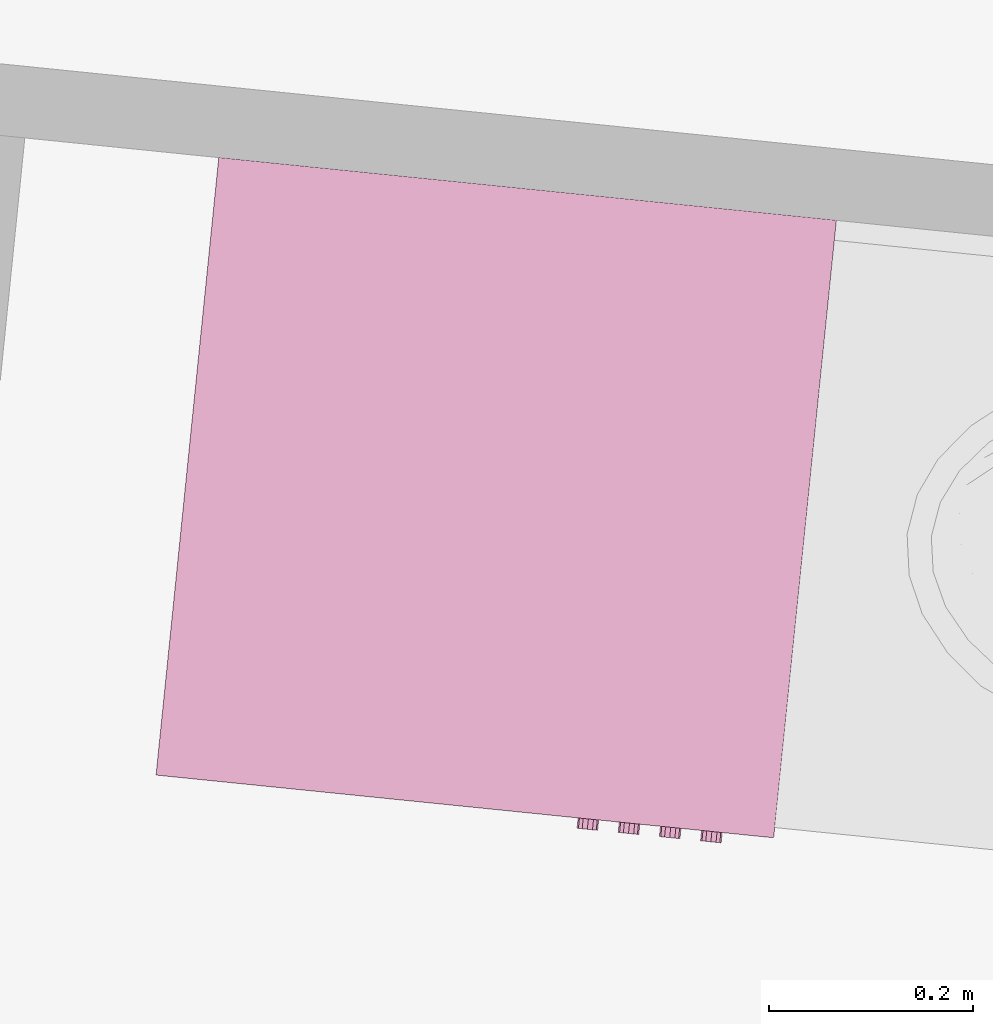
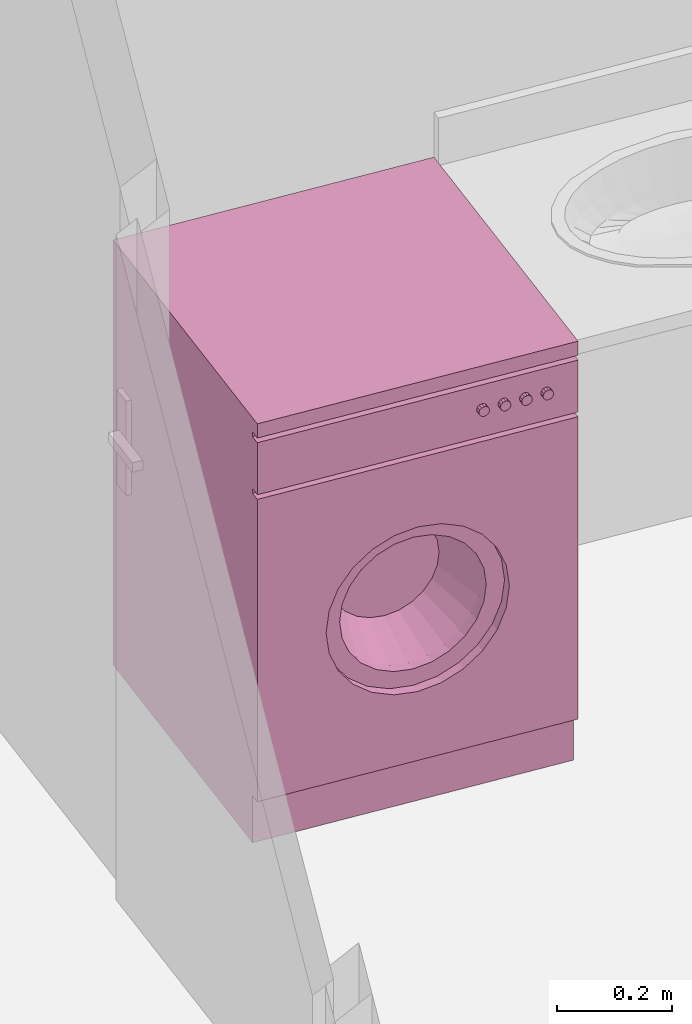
# One storey, part 134 of 164: 1 furnishing.
"""IFC2X3 building model written with IfcOpenShell, lengths in millimetres."""

from ifc_helpers import new_model, entity, si_unit, converted_unit, derived_unit, money_unit, direction, frame, origin_with_axes, place, context, subcontext, project, spatial, open_shell, faceted_brep, surface_model, source, transform, mapped, type_object, element, save


model = new_model("IFC2X3")

# Units and contexts
model_context = context("Model", 3, precision=0.01, world=origin_with_axes(), true_north=direction((0.0, 1.0)))
body_context = subcontext(model_context, "Body", "Model", "MODEL_VIEW")
ifc_project = project(units=[si_unit("LENGTHUNIT", "METRE", prefix="MILLI"), si_unit("AREAUNIT", "SQUARE_METRE"), si_unit("VOLUMEUNIT", "CUBIC_METRE"), converted_unit("PLANEANGLEUNIT", "DEGREE", entity("IfcPlaneAngleMeasure", 0.0174532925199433), si_unit("PLANEANGLEUNIT", "RADIAN"), dimensions=[0, 0, 0, 0, 0, 0, 0]), money_unit("USD"), converted_unit("TIMEUNIT", "Year", entity("IfcTimeMeasure", 31557600.0), si_unit("TIMEUNIT", "SECOND"), dimensions=[0, 0, 1, 0, 0, 0, 0]), si_unit("MASSUNIT", "GRAM", prefix="KILO"), si_unit("THERMODYNAMICTEMPERATUREUNIT", "DEGREE_CELSIUS"), si_unit("LUMINOUSINTENSITYUNIT", "LUMEN"), si_unit("ENERGYUNIT", "JOULE", prefix="MEGA"), derived_unit("THERMALCONDUCTANCEUNIT", [(si_unit("POWERUNIT", "WATT"), 1), (si_unit("LENGTHUNIT", "METRE"), -1), (si_unit("THERMODYNAMICTEMPERATUREUNIT", "KELVIN"), -1)]), derived_unit("SPECIFICHEATCAPACITYUNIT", [(si_unit("ENERGYUNIT", "JOULE"), 1), (si_unit("MASSUNIT", "GRAM", prefix="KILO"), -1), (si_unit("THERMODYNAMICTEMPERATUREUNIT", "KELVIN"), -1)]), derived_unit("MASSDENSITYUNIT", [(si_unit("MASSUNIT", "GRAM", prefix="KILO"), 1), (si_unit("VOLUMEUNIT", "CUBIC_METRE"), -1)])], contexts=[model_context])

# Site, building, storey
site_placement = place(None, origin_with_axes())
site = spatial("IfcSite", under=ifc_project, at=site_placement, Name="Site", CompositionType="ELEMENT")
building_placement = place(site_placement, origin_with_axes())
building = spatial("IfcBuilding", under=site, at=building_placement, Name="Bâtiment", CompositionType="ELEMENT")
storey_placement = place(building_placement, frame((0.0, 0.0, 5750.0), z_axis=(0.0, 0.0, 1.0), x_axis=(1.0, 0.0, 0.0)))
storey = spatial("IfcBuildingStorey", under=building, at=storey_placement, Name="Etage1", CompositionType="ELEMENT", Elevation=5750.0)

# Furnishing
furnishing_element_type = type_object("IfcFurnishingElementType", Name="Machine à laver")
shared_shape = source(origin_with_axes(), body_context, "Body", "SurfaceModel", [
    faceted_brep([(0.0, 20.33333333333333, 100.0), (0.0, 0.0, 100.0), (-610.0, 0.0, 100.0), (-610.0, 20.33333333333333, 100.0), (0.0, 20.33333333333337, 740.0), (0.0, 0.0, 740.0), (-610.0, 0.0, 740.0), (-479.2857142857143, 0.0, 420.0000000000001), (-473.3470725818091, 0.0, 465.1084621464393), (-455.935856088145, 0.0, 507.1428571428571), (-428.2386104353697, 0.0, 543.2386104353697), (-392.1428571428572, 0.0, 570.935856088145), (-350.1084621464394, 0.0, 588.347072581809), (-305.0000000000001, 0.0, 594.2857142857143), (-259.8915378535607, 0.0, 588.347072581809), (-217.8571428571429, 0.0, 570.9358560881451), (-181.7613895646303, 0.0, 543.2386104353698), (-154.0641439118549, 0.0, 507.1428571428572), (-136.6529274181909, 0.0, 465.1084621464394), (-130.7142857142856, 0.0, 420.0000000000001), (-136.6529274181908, 0.0, 374.8915378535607), (-154.0641439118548, 0.0, 332.8571428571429), (-181.7613895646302, 0.0, 296.7613895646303), (-217.8571428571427, 0.0, 269.064143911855), (-259.8915378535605, 0.0, 251.6529274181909), (-304.9999999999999, 0.0, 245.7142857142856), (-350.1084621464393, 0.0, 251.6529274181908), (-392.1428571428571, 0.0, 269.0641439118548), (-428.2386104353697, 0.0, 296.7613895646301), (-455.935856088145, 0.0, 332.8571428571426), (-473.3470725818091, 0.0, 374.8915378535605), (-610.0, 20.33333333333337, 740.0), (-479.2857142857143, 20.33333333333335, 420.0000000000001), (-473.3470725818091, 20.33333333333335, 374.8915378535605), (-455.935856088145, 20.33333333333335, 332.8571428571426), (-428.2386104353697, 20.33333333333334, 296.7613895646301), (-392.1428571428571, 20.33333333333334, 269.0641439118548), (-350.1084621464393, 20.33333333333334, 251.6529274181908), (-304.9999999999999, 20.33333333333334, 245.7142857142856), (-259.8915378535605, 20.33333333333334, 251.6529274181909), (-217.8571428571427, 20.33333333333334, 269.064143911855), (-181.7613895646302, 20.33333333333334, 296.7613895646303), (-154.0641439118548, 20.33333333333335, 332.8571428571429), (-136.6529274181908, 20.33333333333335, 374.8915378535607), (-130.7142857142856, 20.33333333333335, 420.0000000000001), (-136.6529274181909, 20.33333333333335, 465.1084621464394), (-154.0641439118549, 20.33333333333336, 507.1428571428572), (-181.7613895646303, 20.33333333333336, 543.2386104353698), (-217.8571428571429, 20.33333333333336, 570.9358560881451), (-259.8915378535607, 20.33333333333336, 588.347072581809), (-305.0000000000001, 20.33333333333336, 594.2857142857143), (-350.1084621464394, 20.33333333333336, 588.347072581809), (-392.1428571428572, 20.33333333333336, 570.935856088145), (-428.2386104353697, 20.33333333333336, 543.2386104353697), (-455.935856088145, 20.33333333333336, 507.1428571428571), (-473.3470725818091, 20.33333333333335, 465.1084621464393)], [[[0, 1, 2, 3]], [[4, 5, 1, 0]], [[1, 5, 6, 2], [7, 8, 9, 10, 11, 12, 13, 14, 15, 16, 17, 18, 19, 20, 21, 22, 23, 24, 25, 26, 27, 28, 29, 30]], [[3, 2, 6, 31]], [[0, 3, 31, 4], [32, 33, 34, 35, 36, 37, 38, 39, 40, 41, 42, 43, 44, 45, 46, 47, 48, 49, 50, 51, 52, 53, 54, 55]], [[31, 6, 5, 4]], [[55, 8, 7, 32]], [[54, 9, 8, 55]], [[53, 10, 9, 54]], [[52, 11, 10, 53]], [[51, 12, 11, 52]], [[50, 13, 12, 51]], [[49, 14, 13, 50]], [[48, 15, 14, 49]], [[47, 16, 15, 48]], [[46, 17, 16, 47]], [[45, 18, 17, 46]], [[44, 19, 18, 45]], [[43, 20, 19, 44]], [[42, 21, 20, 43]], [[41, 22, 21, 42]], [[40, 23, 22, 41]], [[39, 24, 23, 40]], [[38, 25, 24, 39]], [[37, 26, 25, 38]], [[36, 27, 26, 37]], [[35, 28, 27, 36]], [[34, 29, 28, 35]], [[33, 30, 29, 34]], [[32, 7, 30, 33]]]),
    faceted_brep([(-479.2857142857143, 40.66666666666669, 420.0000000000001), (-479.2857142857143, 20.33333333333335, 420.0000000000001), (-473.3470725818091, 20.33333333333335, 465.1084621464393), (-473.3470725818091, 40.66666666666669, 465.1084621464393), (-473.3470725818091, 40.66666666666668, 374.8915378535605), (-473.3470725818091, 20.33333333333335, 374.8915378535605), (-455.935856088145, 20.33333333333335, 332.8571428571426), (-428.2386104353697, 20.33333333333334, 296.7613895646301), (-392.1428571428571, 20.33333333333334, 269.0641439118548), (-350.1084621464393, 20.33333333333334, 251.6529274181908), (-304.9999999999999, 20.33333333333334, 245.7142857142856), (-259.8915378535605, 20.33333333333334, 251.6529274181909), (-217.8571428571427, 20.33333333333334, 269.064143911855), (-181.7613895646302, 20.33333333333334, 296.7613895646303), (-154.0641439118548, 20.33333333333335, 332.8571428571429), (-136.6529274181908, 20.33333333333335, 374.8915378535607), (-130.7142857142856, 20.33333333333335, 420.0000000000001), (-136.6529274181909, 20.33333333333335, 465.1084621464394), (-154.0641439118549, 20.33333333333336, 507.1428571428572), (-181.7613895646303, 20.33333333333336, 543.2386104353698), (-217.8571428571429, 20.33333333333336, 570.9358560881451), (-259.8915378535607, 20.33333333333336, 588.347072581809), (-305.0000000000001, 20.33333333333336, 594.2857142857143), (-350.1084621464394, 20.33333333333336, 588.347072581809), (-392.1428571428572, 20.33333333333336, 570.935856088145), (-428.2386104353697, 20.33333333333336, 543.2386104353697), (-455.935856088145, 20.33333333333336, 507.1428571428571), (-444.4285714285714, 20.33333333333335, 420.0000000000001), (-439.6776580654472, 20.33333333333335, 456.0867697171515), (-425.748684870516, 20.33333333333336, 489.7142857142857), (-403.5908883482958, 20.33333333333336, 518.5908883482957), (-374.7142857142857, 20.33333333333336, 540.748684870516), (-341.0867697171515, 20.33333333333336, 554.6776580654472), (-305.0000000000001, 20.33333333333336, 559.4285714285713), (-268.9132302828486, 20.33333333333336, 554.6776580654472), (-235.2857142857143, 20.33333333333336, 540.7486848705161), (-206.4091116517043, 20.33333333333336, 518.5908883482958), (-184.251315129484, 20.33333333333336, 489.7142857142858), (-170.3223419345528, 20.33333333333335, 456.0867697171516), (-165.5714285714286, 20.33333333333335, 420.0000000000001), (-170.3223419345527, 20.33333333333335, 383.9132302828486), (-184.2513151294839, 20.33333333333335, 350.2857142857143), (-206.4091116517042, 20.33333333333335, 321.4091116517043), (-235.2857142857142, 20.33333333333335, 299.251315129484), (-268.9132302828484, 20.33333333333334, 285.3223419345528), (-304.9999999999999, 20.33333333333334, 280.5714285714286), (-341.0867697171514, 20.33333333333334, 285.3223419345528), (-374.7142857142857, 20.33333333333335, 299.2513151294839), (-403.5908883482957, 20.33333333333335, 321.4091116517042), (-425.748684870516, 20.33333333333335, 350.2857142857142), (-439.6776580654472, 20.33333333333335, 383.9132302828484), (-455.935856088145, 40.66666666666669, 507.1428571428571), (-428.2386104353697, 40.66666666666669, 543.2386104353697), (-392.1428571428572, 40.66666666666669, 570.935856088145), (-350.1084621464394, 40.66666666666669, 588.347072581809), (-305.0000000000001, 40.66666666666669, 594.2857142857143), (-259.8915378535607, 40.66666666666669, 588.347072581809), (-217.8571428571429, 40.66666666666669, 570.9358560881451), (-181.7613895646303, 40.66666666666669, 543.2386104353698), (-154.0641439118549, 40.66666666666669, 507.1428571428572), (-136.6529274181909, 40.66666666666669, 465.1084621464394), (-130.7142857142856, 40.66666666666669, 420.0000000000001), (-136.6529274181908, 40.66666666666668, 374.8915378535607), (-154.0641439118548, 40.66666666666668, 332.8571428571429), (-181.7613895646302, 40.66666666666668, 296.7613895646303), (-217.8571428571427, 40.66666666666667, 269.064143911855), (-259.8915378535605, 40.66666666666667, 251.6529274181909), (-304.9999999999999, 40.66666666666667, 245.7142857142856), (-350.1084621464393, 40.66666666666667, 251.6529274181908), (-392.1428571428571, 40.66666666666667, 269.0641439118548), (-428.2386104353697, 40.66666666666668, 296.7613895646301), (-455.935856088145, 40.66666666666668, 332.8571428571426), (-444.4285714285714, 40.66666666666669, 420.0000000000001), (-439.6776580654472, 40.66666666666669, 383.9132302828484), (-425.748684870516, 40.66666666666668, 350.2857142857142), (-403.5908883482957, 40.66666666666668, 321.4091116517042), (-374.7142857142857, 40.66666666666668, 299.2513151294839), (-341.0867697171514, 40.66666666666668, 285.3223419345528), (-304.9999999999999, 40.66666666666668, 280.5714285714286), (-268.9132302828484, 40.66666666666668, 285.3223419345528), (-235.2857142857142, 40.66666666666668, 299.251315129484), (-206.4091116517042, 40.66666666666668, 321.4091116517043), (-184.2513151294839, 40.66666666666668, 350.2857142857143), (-170.3223419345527, 40.66666666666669, 383.9132302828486), (-165.5714285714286, 40.66666666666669, 420.0000000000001), (-170.3223419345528, 40.66666666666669, 456.0867697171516), (-184.251315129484, 40.66666666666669, 489.7142857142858), (-206.4091116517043, 40.66666666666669, 518.5908883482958), (-235.2857142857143, 40.66666666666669, 540.7486848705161), (-268.9132302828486, 40.66666666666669, 554.6776580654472), (-305.0000000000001, 40.66666666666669, 559.4285714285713), (-341.0867697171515, 40.66666666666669, 554.6776580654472), (-374.7142857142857, 40.66666666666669, 540.748684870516), (-403.5908883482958, 40.66666666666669, 518.5908883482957), (-425.748684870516, 40.66666666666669, 489.7142857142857), (-439.6776580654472, 40.66666666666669, 456.0867697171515)], [[[0, 1, 2, 3]], [[4, 5, 1, 0]], [[1, 5, 6, 7, 8, 9, 10, 11, 12, 13, 14, 15, 16, 17, 18, 19, 20, 21, 22, 23, 24, 25, 26, 2], [27, 28, 29, 30, 31, 32, 33, 34, 35, 36, 37, 38, 39, 40, 41, 42, 43, 44, 45, 46, 47, 48, 49, 50]], [[3, 2, 26, 51]], [[0, 3, 51, 52, 53, 54, 55, 56, 57, 58, 59, 60, 61, 62, 63, 64, 65, 66, 67, 68, 69, 70, 71, 4], [72, 73, 74, 75, 76, 77, 78, 79, 80, 81, 82, 83, 84, 85, 86, 87, 88, 89, 90, 91, 92, 93, 94, 95]], [[71, 6, 5, 4]], [[70, 7, 6, 71]], [[69, 8, 7, 70]], [[68, 9, 8, 69]], [[67, 10, 9, 68]], [[66, 11, 10, 67]], [[65, 12, 11, 66]], [[64, 13, 12, 65]], [[63, 14, 13, 64]], [[62, 15, 14, 63]], [[61, 16, 15, 62]], [[60, 17, 16, 61]], [[59, 18, 17, 60]], [[58, 19, 18, 59]], [[57, 20, 19, 58]], [[56, 21, 20, 57]], [[55, 22, 21, 56]], [[54, 23, 22, 55]], [[53, 24, 23, 54]], [[52, 25, 24, 53]], [[51, 26, 25, 52]], [[95, 28, 27, 72]], [[94, 29, 28, 95]], [[93, 30, 29, 94]], [[92, 31, 30, 93]], [[91, 32, 31, 92]], [[90, 33, 32, 91]], [[89, 34, 33, 90]], [[88, 35, 34, 89]], [[87, 36, 35, 88]], [[86, 37, 36, 87]], [[85, 38, 37, 86]], [[84, 39, 38, 85]], [[83, 40, 39, 84]], [[82, 41, 40, 83]], [[81, 42, 41, 82]], [[80, 43, 42, 81]], [[79, 44, 43, 80]], [[78, 45, 44, 79]], [[77, 46, 45, 78]], [[76, 47, 46, 77]], [[75, 48, 47, 76]], [[74, 49, 48, 75]], [[73, 50, 49, 74]], [[72, 27, 50, 73]]]),
    surface_model("IfcShellBasedSurfaceModel", [(-268.9132302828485, 40.6666666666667, 554.6776580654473), (-277.9349227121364, 142.3333333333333, 521.0082435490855), (-305.0, 142.3333333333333, 524.5714285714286), (-305.0, 40.6666666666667, 559.4285714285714), (-235.2857142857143, 40.6666666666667, 540.7486848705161), (-252.7142857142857, 142.3333333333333, 510.5615136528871), (-231.0568337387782, 142.3333333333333, 493.9431662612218), (-214.438486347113, 142.3333333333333, 472.2857142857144), (-203.9917564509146, 142.3333333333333, 447.0650772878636), (-200.4285714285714, 142.3333333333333, 420.0000000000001), (-203.9917564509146, 142.3333333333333, 392.9349227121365), (-214.4384863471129, 142.3333333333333, 367.7142857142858), (-231.0568337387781, 142.3333333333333, 346.0568337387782), (-252.7142857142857, 142.3333333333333, 329.438486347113), (-277.9349227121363, 142.3333333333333, 318.9917564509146), (-304.9999999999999, 142.3333333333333, 315.4285714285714), (-332.0650772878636, 142.3333333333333, 318.9917564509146), (-357.2857142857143, 142.3333333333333, 329.438486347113), (-378.9431662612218, 142.3333333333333, 346.0568337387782), (-395.561513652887, 142.3333333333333, 367.7142857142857), (-406.0082435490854, 142.3333333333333, 392.9349227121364), (-409.5714285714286, 142.3333333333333, 420.0), (-406.0082435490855, 142.3333333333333, 447.0650772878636), (-395.5615136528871, 142.3333333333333, 472.2857142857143), (-378.9431662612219, 142.3333333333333, 493.9431662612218), (-357.2857142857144, 142.3333333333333, 510.5615136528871), (-332.0650772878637, 142.3333333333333, 521.0082435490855), (-341.0867697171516, 40.6666666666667, 554.6776580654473), (-206.4091116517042, 40.66666666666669, 518.5908883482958), (-184.251315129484, 40.66666666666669, 489.7142857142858), (-170.3223419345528, 40.66666666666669, 456.0867697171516), (-165.5714285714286, 40.66666666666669, 420.0000000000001), (-170.3223419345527, 40.66666666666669, 383.9132302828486), (-184.2513151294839, 40.66666666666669, 350.2857142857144), (-206.4091116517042, 40.66666666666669, 321.4091116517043), (-235.2857142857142, 40.66666666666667, 299.251315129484), (-268.9132302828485, 40.66666666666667, 285.3223419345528), (-304.9999999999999, 40.66666666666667, 280.5714285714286), (-341.0867697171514, 40.66666666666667, 285.3223419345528), (-374.7142857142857, 40.66666666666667, 299.2513151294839), (-403.5908883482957, 40.66666666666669, 321.4091116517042), (-425.748684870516, 40.66666666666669, 350.2857142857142), (-439.6776580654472, 40.66666666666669, 383.9132302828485), (-444.4285714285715, 40.66666666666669, 419.9999999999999), (-439.6776580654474, 40.66666666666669, 456.0867697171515), (-425.7486848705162, 40.66666666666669, 489.7142857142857), (-403.5908883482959, 40.66666666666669, 518.5908883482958), (-374.7142857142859, 40.6666666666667, 540.7486848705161)], [open_shell([[[0, 1, 2, 3]], [[4, 5, 1, 0]], [[2, 1, 5, 6, 7, 8, 9, 10, 11, 12, 13, 14, 15, 16, 17, 18, 19, 20, 21, 22, 23, 24, 25, 26]], [[3, 2, 26, 27]], [[28, 6, 5, 4]], [[29, 7, 6, 28]], [[30, 8, 7, 29]], [[31, 9, 8, 30]], [[32, 10, 9, 31]], [[33, 11, 10, 32]], [[34, 12, 11, 33]], [[35, 13, 12, 34]], [[36, 14, 13, 35]], [[37, 15, 14, 36]], [[38, 16, 15, 37]], [[39, 17, 16, 38]], [[40, 18, 17, 39]], [[41, 19, 18, 40]], [[42, 20, 19, 41]], [[43, 21, 20, 42]], [[44, 22, 21, 43]], [[45, 23, 22, 44]], [[46, 24, 23, 45]], [[47, 25, 24, 46]], [[27, 26, 25, 47]]])]),
    surface_model("IfcShellBasedSurfaceModel", [(0.0, 20.33333333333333, 100.0), (0.0, 610.0, 99.99999999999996), (0.0, 610.0, 870.0), (0.0, 20.33333333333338, 870.0)], [open_shell([[[0, 1, 2, 3]]])]),
    surface_model("IfcShellBasedSurfaceModel", [(-610.0, 20.33333333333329, 100.0), (-610.0, 610.0, 99.99999999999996), (-610.0, 610.0, 870.0), (-610.0, 20.33333333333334, 870.0)], [open_shell([[[0, 1, 2, 3]]])]),
    surface_model("IfcShellBasedSurfaceModel", [(0.0, 610.0, 100.0), (-610.0, 610.0, 100.0), (-610.0, 610.0, 870.0), (0.0, 610.0, 870.0)], [open_shell([[[0, 1, 2, 3]]])]),
    faceted_brep([(0.0, 20.33333333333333, 0.0), (0.0, 20.33333333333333, 100.0), (-610.0, 20.33333333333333, 100.0), (-610.0, 20.33333333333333, 0.0), (0.0, 610.3333333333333, 0.0), (0.0, 610.3333333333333, 100.0), (-610.0, 610.3333333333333, 100.0), (-610.0, 610.3333333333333, 0.0)], [[[0, 1, 2, 3]], [[4, 5, 1, 0]], [[1, 5, 6, 2]], [[3, 2, 6, 7]], [[0, 3, 7, 4]], [[7, 6, 5, 4]]]),
    faceted_brep([(0.0, 20.33333333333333, 750.0), (0.0, 0.0, 750.0), (-610.0, 0.0, 750.0), (-610.0, 20.33333333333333, 750.0), (0.0, 20.33333333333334, 860.0), (0.0, 0.0, 860.0), (-610.0, 0.0, 860.0), (-610.0, 20.33333333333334, 860.0)], [[[0, 1, 2, 3]], [[4, 5, 1, 0]], [[1, 5, 6, 2]], [[3, 2, 6, 7]], [[0, 3, 7, 4]], [[7, 6, 5, 4]]]),
    surface_model("IfcShellBasedSurfaceModel", [(0.0, 20.33333333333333, 739.8333333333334), (-610.0, 20.33333333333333, 739.8333333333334), (-610.0, 20.33333333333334, 869.8333333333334), (0.0, 20.33333333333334, 869.8333333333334)], [open_shell([[[0, 1, 2, 3]]])]),
    faceted_brep([(0.0, 0.0, 870.0), (0.0, 0.0, 900.0), (-610.0, 0.0, 900.0), (-610.0, 0.0, 870.0), (0.0, 610.0, 870.0), (0.0, 610.0, 900.0), (-610.0, 610.0, 900.0), (-610.0, 610.0, 870.0)], [[[0, 1, 2, 3]], [[4, 5, 1, 0]], [[1, 5, 6, 2]], [[3, 2, 6, 7]], [[0, 3, 7, 4]], [[7, 6, 5, 4]]]),
    faceted_brep([(-69.80459160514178, 0.0, 804.9166666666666), (-71.16666666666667, 0.0, 809.9999999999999), (-69.8045916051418, 0.0, 815.0833333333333), (-66.08333333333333, 0.0, 818.8045916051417), (-61.0, 0.0, 820.1666666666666), (-55.91666666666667, 0.0, 818.8045916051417), (-52.19540839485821, 0.0, 815.0833333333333), (-50.83333333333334, 0.0, 809.9999999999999), (-52.1954083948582, 0.0, 804.9166666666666), (-55.91666666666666, 0.0, 801.1954083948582), (-60.99999999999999, 0.0, 799.8333333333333), (-66.08333333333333, 0.0, 801.1954083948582), (-69.80459160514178, -10.16666666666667, 804.9166666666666), (-71.16666666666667, -10.16666666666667, 809.9999999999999), (-69.8045916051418, -10.16666666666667, 815.0833333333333), (-66.08333333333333, -10.16666666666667, 818.8045916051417), (-61.0, -10.16666666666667, 820.1666666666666), (-55.91666666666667, -10.16666666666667, 818.8045916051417), (-52.19540839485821, -10.16666666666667, 815.0833333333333), (-50.83333333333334, -10.16666666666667, 809.9999999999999), (-52.1954083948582, -10.16666666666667, 804.9166666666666), (-55.91666666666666, -10.16666666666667, 801.1954083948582), (-60.99999999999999, -10.16666666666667, 799.8333333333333), (-66.08333333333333, -10.16666666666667, 801.1954083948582)], [[[0, 1, 2, 3, 4, 5, 6, 7, 8, 9, 10, 11]], [[0, 12, 13, 1]], [[1, 13, 14, 2]], [[2, 14, 15, 3]], [[3, 15, 16, 4]], [[4, 16, 17, 5]], [[5, 17, 18, 6]], [[6, 18, 19, 7]], [[7, 19, 20, 8]], [[8, 20, 21, 9]], [[9, 21, 22, 10]], [[10, 22, 23, 11]], [[11, 23, 12, 0]], [[12, 23, 22, 21, 20, 19, 18, 17, 16, 15, 14, 13]]]),
    faceted_brep([(-110.4712582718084, 0.0, 804.9166666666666), (-111.8333333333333, 0.0, 809.9999999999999), (-110.4712582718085, 0.0, 815.0833333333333), (-106.75, 0.0, 818.8045916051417), (-101.6666666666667, 0.0, 820.1666666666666), (-96.58333333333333, 0.0, 818.8045916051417), (-92.86207506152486, 0.0, 815.0833333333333), (-91.49999999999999, 0.0, 809.9999999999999), (-92.86207506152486, 0.0, 804.9166666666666), (-96.58333333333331, 0.0, 801.1954083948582), (-101.6666666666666, 0.0, 799.8333333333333), (-106.75, 0.0, 801.1954083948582), (-110.4712582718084, -10.16666666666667, 804.9166666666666), (-111.8333333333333, -10.16666666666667, 809.9999999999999), (-110.4712582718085, -10.16666666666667, 815.0833333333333), (-106.75, -10.16666666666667, 818.8045916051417), (-101.6666666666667, -10.16666666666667, 820.1666666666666), (-96.58333333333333, -10.16666666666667, 818.8045916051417), (-92.86207506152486, -10.16666666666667, 815.0833333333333), (-91.49999999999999, -10.16666666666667, 809.9999999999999), (-92.86207506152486, -10.16666666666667, 804.9166666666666), (-96.58333333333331, -10.16666666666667, 801.1954083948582), (-101.6666666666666, -10.16666666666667, 799.8333333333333), (-106.75, -10.16666666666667, 801.1954083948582)], [[[0, 1, 2, 3, 4, 5, 6, 7, 8, 9, 10, 11]], [[0, 12, 13, 1]], [[1, 13, 14, 2]], [[2, 14, 15, 3]], [[3, 15, 16, 4]], [[4, 16, 17, 5]], [[5, 17, 18, 6]], [[6, 18, 19, 7]], [[7, 19, 20, 8]], [[8, 20, 21, 9]], [[9, 21, 22, 10]], [[10, 22, 23, 11]], [[11, 23, 12, 0]], [[12, 23, 22, 21, 20, 19, 18, 17, 16, 15, 14, 13]]]),
    faceted_brep([(-151.1379249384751, 0.0, 804.9166666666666), (-152.5, 0.0, 809.9999999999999), (-151.1379249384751, 0.0, 815.0833333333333), (-147.4166666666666, 0.0, 818.8045916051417), (-142.3333333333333, 0.0, 820.1666666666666), (-137.25, 0.0, 818.8045916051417), (-133.5287417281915, 0.0, 815.0833333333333), (-132.1666666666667, 0.0, 809.9999999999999), (-133.5287417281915, 0.0, 804.9166666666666), (-137.25, 0.0, 801.1954083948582), (-142.3333333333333, 0.0, 799.8333333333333), (-147.4166666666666, 0.0, 801.1954083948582), (-151.1379249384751, -10.16666666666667, 804.9166666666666), (-152.5, -10.16666666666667, 809.9999999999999), (-151.1379249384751, -10.16666666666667, 815.0833333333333), (-147.4166666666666, -10.16666666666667, 818.8045916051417), (-142.3333333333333, -10.16666666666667, 820.1666666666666), (-137.25, -10.16666666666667, 818.8045916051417), (-133.5287417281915, -10.16666666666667, 815.0833333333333), (-132.1666666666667, -10.16666666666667, 809.9999999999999), (-133.5287417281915, -10.16666666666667, 804.9166666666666), (-137.25, -10.16666666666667, 801.1954083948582), (-142.3333333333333, -10.16666666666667, 799.8333333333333), (-147.4166666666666, -10.16666666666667, 801.1954083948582)], [[[0, 1, 2, 3, 4, 5, 6, 7, 8, 9, 10, 11]], [[0, 12, 13, 1]], [[1, 13, 14, 2]], [[2, 14, 15, 3]], [[3, 15, 16, 4]], [[4, 16, 17, 5]], [[5, 17, 18, 6]], [[6, 18, 19, 7]], [[7, 19, 20, 8]], [[8, 20, 21, 9]], [[9, 21, 22, 10]], [[10, 22, 23, 11]], [[11, 23, 12, 0]], [[12, 23, 22, 21, 20, 19, 18, 17, 16, 15, 14, 13]]]),
    faceted_brep([(-191.8045916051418, 0.0, 804.9166666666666), (-193.1666666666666, 0.0, 809.9999999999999), (-191.8045916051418, 0.0, 815.0833333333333), (-188.0833333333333, 0.0, 818.8045916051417), (-183.0, 0.0, 820.1666666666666), (-177.9166666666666, 0.0, 818.8045916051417), (-174.1954083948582, 0.0, 815.0833333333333), (-172.8333333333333, 0.0, 809.9999999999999), (-174.1954083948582, 0.0, 804.9166666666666), (-177.9166666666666, 0.0, 801.1954083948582), (-183.0, 0.0, 799.8333333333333), (-188.0833333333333, 0.0, 801.1954083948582), (-191.8045916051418, -10.16666666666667, 804.9166666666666), (-193.1666666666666, -10.16666666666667, 809.9999999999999), (-191.8045916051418, -10.16666666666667, 815.0833333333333), (-188.0833333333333, -10.16666666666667, 818.8045916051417), (-183.0, -10.16666666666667, 820.1666666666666), (-177.9166666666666, -10.16666666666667, 818.8045916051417), (-174.1954083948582, -10.16666666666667, 815.0833333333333), (-172.8333333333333, -10.16666666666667, 809.9999999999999), (-174.1954083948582, -10.16666666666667, 804.9166666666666), (-177.9166666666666, -10.16666666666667, 801.1954083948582), (-183.0, -10.16666666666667, 799.8333333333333), (-188.0833333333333, -10.16666666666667, 801.1954083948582)], [[[0, 1, 2, 3, 4, 5, 6, 7, 8, 9, 10, 11]], [[0, 12, 13, 1]], [[1, 13, 14, 2]], [[2, 14, 15, 3]], [[3, 15, 16, 4]], [[4, 16, 17, 5]], [[5, 17, 18, 6]], [[6, 18, 19, 7]], [[7, 19, 20, 8]], [[8, 20, 21, 9]], [[9, 21, 22, 10]], [[10, 22, 23, 11]], [[11, 23, 12, 0]], [[12, 23, 22, 21, 20, 19, 18, 17, 16, 15, 14, 13]]]),
])
furnishing_placement = place(storey_placement, frame((2238422.458214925, -611318.8692225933, 0.0), z_axis=(0.0, 0.0, 1.0), x_axis=(0.994882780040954, -0.1010359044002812, 0.0)))
element("IfcFurnishingElement", 1, at=furnishing_placement, inside=storey, type_object=furnishing_element_type, Name="Obj.-003", context=body_context, shape_type="MappedRepresentation", body=[
    mapped(shared_shape, transform((0.0, 0.0, 0.0))),
])

save(model, "model.ifc")
